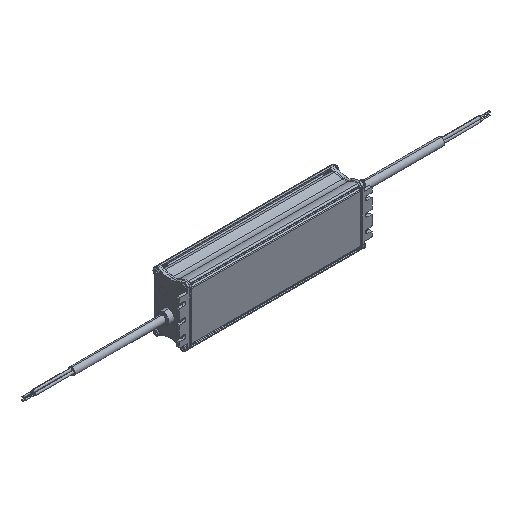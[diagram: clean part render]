
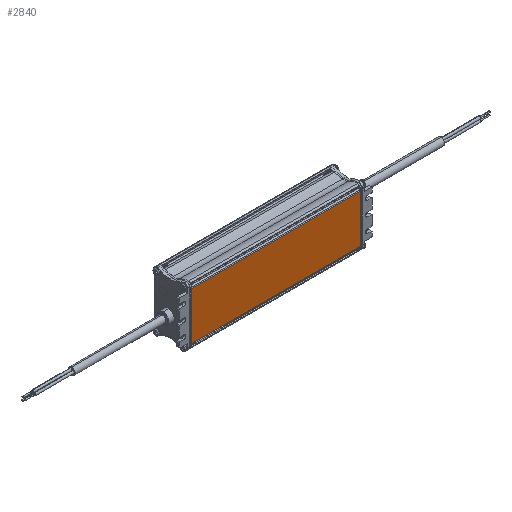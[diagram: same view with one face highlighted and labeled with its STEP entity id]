
A CAD part, isometric view. The second image highlights one B-rep face of the part: STEP entity #2840.
In plain terms, the highlighted planar face has unit normal (0, -1, 0).
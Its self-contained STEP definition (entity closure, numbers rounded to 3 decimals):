
#146=DIRECTION('',(0.,0.,-1.));
#147=VECTOR('',#146,49.366);
#148=CARTESIAN_POINT('',(-87.5,-17.,24.683));
#149=LINE('',#148,#147);
#769=DIRECTION('',(0.,0.,-1.));
#770=VECTOR('',#769,49.366);
#771=CARTESIAN_POINT('',(87.5,-17.,24.683));
#772=LINE('',#771,#770);
#1232=DIRECTION('',(-1.,0.,0.));
#1233=VECTOR('',#1232,175.);
#1234=CARTESIAN_POINT('',(87.5,-17.,24.683));
#1235=LINE('',#1234,#1233);
#1239=DIRECTION('',(1.,0.,0.));
#1240=VECTOR('',#1239,175.);
#1241=CARTESIAN_POINT('',(-87.5,-17.,-24.683));
#1242=LINE('',#1241,#1240);
#1446=CARTESIAN_POINT('',(-87.5,-17.,24.683));
#1448=VERTEX_POINT('',#1446);
#1452=CARTESIAN_POINT('',(87.5,-17.,24.683));
#1453=VERTEX_POINT('',#1452);
#1454=CARTESIAN_POINT('',(87.5,-17.,-24.683));
#1456=VERTEX_POINT('',#1454);
#1460=CARTESIAN_POINT('',(-87.5,-17.,-24.683));
#1461=VERTEX_POINT('',#1460);
#2829=CARTESIAN_POINT('',(-87.5,-17.,30.));
#2830=DIRECTION('',(0.,-1.,0.));
#2831=DIRECTION('',(0.,0.,-1.));
#2832=AXIS2_PLACEMENT_3D('',#2829,#2830,#2831);
#2833=PLANE('',#2832);
#2834=ORIENTED_EDGE('',*,*,#2137,.F.);
#2835=ORIENTED_EDGE('',*,*,#1822,.T.);
#2836=ORIENTED_EDGE('',*,*,#2817,.F.);
#2837=ORIENTED_EDGE('',*,*,#1477,.F.);
#2838=EDGE_LOOP('',(#2834,#2835,#2836,#2837));
#2839=FACE_OUTER_BOUND('',#2838,.F.);
#2840=ADVANCED_FACE('',(#2839),#2833,.T.);
#1477=EDGE_CURVE('',#1448,#1461,#149,.T.);
#1822=EDGE_CURVE('',#1453,#1456,#772,.T.);
#2137=EDGE_CURVE('',#1453,#1448,#1235,.T.);
#2817=EDGE_CURVE('',#1461,#1456,#1242,.T.);
